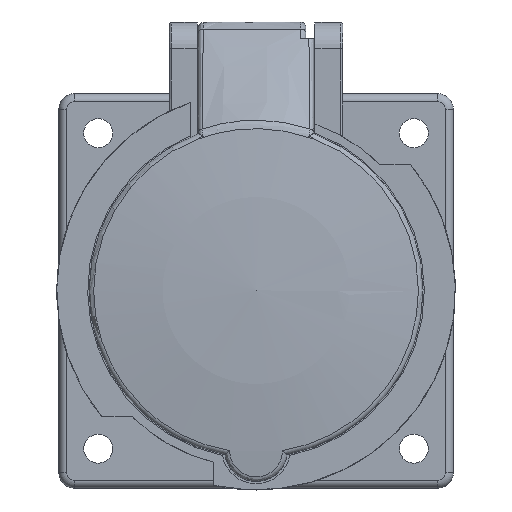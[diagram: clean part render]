
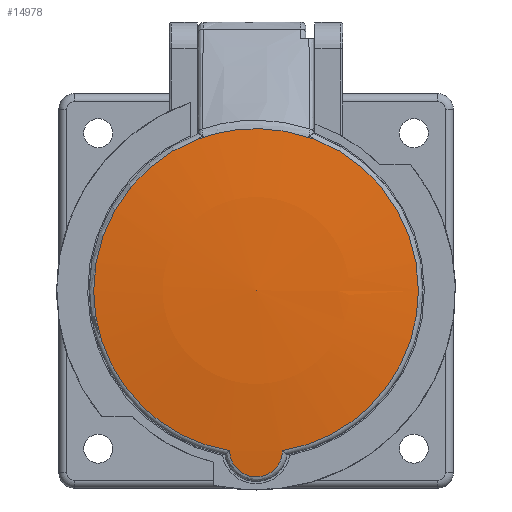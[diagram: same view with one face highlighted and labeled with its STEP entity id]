
A CAD part, top view. The second image highlights one B-rep face of the part: STEP entity #14978.
In plain terms, the highlighted spherical face has radius 253.016 mm.
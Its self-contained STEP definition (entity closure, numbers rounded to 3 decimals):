
#14568 = VERTEX_POINT('',#14569);
#14569 = CARTESIAN_POINT('',(-11.002,28.819,
    49.112));
#14576 = EDGE_CURVE('',#14577,#14568,#14579,.T.);
#14577 = VERTEX_POINT('',#14578);
#14578 = CARTESIAN_POINT('',(11.002,28.819,
    49.112));
#14579 = B_SPLINE_CURVE_WITH_KNOTS('',3,(#14580,#14581,#14582,#14583,
    #14584,#14585,#14586,#14587,#14588,#14589,#14590,#14591,#14592,
    #14593,#14594,#14595,#14596,#14597,#14598,#14599,#14600,#14601,
    #14602,#14603,#14604,#14605,#14606,#14607,#14608,#14609,#14610,
    #14611,#14612,#14613,#14614,#14615,#14616,#14617,#14618,#14619,
    #14620,#14621,#14622,#14623,#14624,#14625,#14626,#14627,#14628,
    #14629,#14630,#14631,#14632,#14633,#14634,#14635,#14636,#14637),
  .UNSPECIFIED.,.F.,.F.,(4,2,2,2,1,2,2,2,2,2,2,2,2,1,1,2,2,2,2,2,2,2,2,1
    ,2,2,2,2,2,2,4),(0.,0.125,0.188,0.219,0.234,0.242,0.25,
    0.281,0.297,0.305,0.313,0.375,0.438,0.469,0.484,
    0.492,0.5,0.531,0.547,0.563,0.594,0.609,0.625,0.656
    ,0.672,0.688,0.719,0.734,0.742,0.75,1.),.UNSPECIFIED.);
#14580 = CARTESIAN_POINT('',(11.002,28.819,
    49.112));
#14581 = CARTESIAN_POINT('',(10.288,29.089,
    49.113));
#14582 = CARTESIAN_POINT('',(9.205,29.427,
    49.116));
#14583 = CARTESIAN_POINT('',(8.04,29.731,
    49.119));
#14584 = CARTESIAN_POINT('',(7.621,29.836,
    49.12));
#14585 = CARTESIAN_POINT('',(6.943,29.991,
    49.12));
#14586 = CARTESIAN_POINT('',(6.708,30.043,
    49.121));
#14587 = CARTESIAN_POINT('',(6.345,30.119,
    49.121));
#14588 = CARTESIAN_POINT('',(6.16,30.157,
    49.121));
#14589 = CARTESIAN_POINT('',(5.971,30.195,
    49.121));
#14590 = CARTESIAN_POINT('',(5.843,30.219,
    49.121));
#14591 = CARTESIAN_POINT('',(5.743,30.238,
    49.121));
#14592 = CARTESIAN_POINT('',(5.6,30.266,
    49.121));
#14593 = CARTESIAN_POINT('',(5.427,30.298,
    49.121));
#14594 = CARTESIAN_POINT('',(5.078,30.358,
    49.121));
#14595 = CARTESIAN_POINT('',(4.947,30.38,
    49.121));
#14596 = CARTESIAN_POINT('',(4.728,30.415,
    49.121));
#14597 = CARTESIAN_POINT('',(4.652,30.427,
    49.121));
#14598 = CARTESIAN_POINT('',(4.491,30.452,
    49.121));
#14599 = CARTESIAN_POINT('',(4.378,30.469,
    49.121));
#14600 = CARTESIAN_POINT('',(3.847,30.545,
    49.12));
#14601 = CARTESIAN_POINT('',(3.382,30.601,
    49.12));
#14602 = CARTESIAN_POINT('',(2.439,30.69,
    49.12));
#14603 = CARTESIAN_POINT('',(1.966,30.723,
    49.121));
#14604 = CARTESIAN_POINT('',(1.257,30.757,
    49.121));
#14605 = CARTESIAN_POINT('',(0.902,30.77,
    49.121));
#14606 = CARTESIAN_POINT('',(0.488,30.777,
    49.121));
#14607 = CARTESIAN_POINT('',(0.31,30.779,
    49.121));
#14608 = CARTESIAN_POINT('',(0.192,30.78,
    49.121));
#14609 = CARTESIAN_POINT('',(0.092,30.78,
    49.121));
#14610 = CARTESIAN_POINT('',(-0.003,30.78,
    49.121));
#14611 = CARTESIAN_POINT('',(-0.16,30.78,
    49.121));
#14612 = CARTESIAN_POINT('',(-0.516,30.776,
    49.121));
#14613 = CARTESIAN_POINT('',(-0.654,30.774,
    49.121));
#14614 = CARTESIAN_POINT('',(-0.971,30.766,
    49.121));
#14615 = CARTESIAN_POINT('',(-1.186,30.759,
    49.121));
#14616 = CARTESIAN_POINT('',(-1.674,30.738,
    49.121));
#14617 = CARTESIAN_POINT('',(-1.955,30.721,
    49.121));
#14618 = CARTESIAN_POINT('',(-2.31,30.696,
    49.12));
#14619 = CARTESIAN_POINT('',(-2.418,30.688,
    49.12));
#14620 = CARTESIAN_POINT('',(-2.61,30.672,
    49.12));
#14621 = CARTESIAN_POINT('',(-2.654,30.668,
    49.12));
#14622 = CARTESIAN_POINT('',(-3.001,30.637,
    49.12));
#14623 = CARTESIAN_POINT('',(-3.352,30.601,
    49.12));
#14624 = CARTESIAN_POINT('',(-3.709,30.558,
    49.121));
#14625 = CARTESIAN_POINT('',(-3.948,30.528,
    49.121));
#14626 = CARTESIAN_POINT('',(-4.014,30.519,
    49.121));
#14627 = CARTESIAN_POINT('',(-4.538,30.446,
    49.121));
#14628 = CARTESIAN_POINT('',(-4.829,30.399,
    49.121));
#14629 = CARTESIAN_POINT('',(-5.182,30.34,
    49.121));
#14630 = CARTESIAN_POINT('',(-5.285,30.322,
    49.121));
#14631 = CARTESIAN_POINT('',(-5.419,30.298,
    49.121));
#14632 = CARTESIAN_POINT('',(-5.461,30.291,
    49.121));
#14633 = CARTESIAN_POINT('',(-5.536,30.277,
    49.121));
#14634 = CARTESIAN_POINT('',(-5.541,30.276,
    49.121));
#14635 = CARTESIAN_POINT('',(-7.513,29.911,
    49.121));
#14636 = CARTESIAN_POINT('',(-9.273,29.473,
    49.113));
#14637 = CARTESIAN_POINT('',(-11.002,28.819,
    49.112));
#14702 = EDGE_CURVE('',#14577,#14703,#14705,.T.);
#14703 = VERTEX_POINT('',#14704);
#14704 = CARTESIAN_POINT('',(30.872,0.,49.109));
#14705 = CIRCLE('',#14706,30.872);
#14706 = AXIS2_PLACEMENT_3D('',#14707,#14708,#14709);
#14707 = CARTESIAN_POINT('',(0.,0.,49.109));
#14708 = DIRECTION('',(0.,0.,-1.));
#14709 = DIRECTION('',(0.357,0.934,0.));
#14711 = EDGE_CURVE('',#14703,#14712,#14714,.T.);
#14712 = VERTEX_POINT('',#14713);
#14713 = CARTESIAN_POINT('',(5.02,-30.461,
    49.109));
#14714 = CIRCLE('',#14715,30.872);
#14715 = AXIS2_PLACEMENT_3D('',#14716,#14717,#14718);
#14716 = CARTESIAN_POINT('',(0.,0.,49.109));
#14717 = DIRECTION('',(0.,0.,-1.));
#14718 = DIRECTION('',(1.,0.,0.));
#14873 = VERTEX_POINT('',#14874);
#14874 = CARTESIAN_POINT('',(-5.02,-30.461,
    49.109));
#14889 = EDGE_CURVE('',#14873,#14712,#14890,.T.);
#14890 = B_SPLINE_CURVE_WITH_KNOTS('',3,(#14891,#14892,#14893,#14894,
    #14895,#14896,#14897,#14898,#14899,#14900),.UNSPECIFIED.,.F.,.F.,(4,
    2,2,2,4),(0.,0.25,0.5,0.75,1.),.UNSPECIFIED.);
#14891 = CARTESIAN_POINT('',(-5.02,-30.461,
    49.109));
#14892 = CARTESIAN_POINT('',(-5.009,-31.735,
    48.955));
#14893 = CARTESIAN_POINT('',(-4.47,-33.056,
    48.795));
#14894 = CARTESIAN_POINT('',(-2.603,-34.91,
    48.57));
#14895 = CARTESIAN_POINT('',(-1.306,-35.44,
    48.506));
#14896 = CARTESIAN_POINT('',(1.309,-35.44,
    48.506));
#14897 = CARTESIAN_POINT('',(2.595,-34.917,
    48.569));
#14898 = CARTESIAN_POINT('',(4.478,-33.048,
    48.796));
#14899 = CARTESIAN_POINT('',(5.009,-31.734,
    48.955));
#14900 = CARTESIAN_POINT('',(5.02,-30.461,
    49.109));
#14978 = ADVANCED_FACE('',(#14979),#15012,.T.);
#14979 = FACE_BOUND('',#14980,.T.);
#14980 = EDGE_LOOP('',(#14981,#14982,#14983,#14992,#14999,#15000,#15001,
    #15011));
#14981 = ORIENTED_EDGE('',*,*,#14702,.F.);
#14982 = ORIENTED_EDGE('',*,*,#14576,.T.);
#14983 = ORIENTED_EDGE('',*,*,#14984,.F.);
#14984 = EDGE_CURVE('',#14985,#14568,#14987,.T.);
#14985 = VERTEX_POINT('',#14986);
#14986 = CARTESIAN_POINT('',(-30.872,0.,
    49.109));
#14987 = CIRCLE('',#14988,30.872);
#14988 = AXIS2_PLACEMENT_3D('',#14989,#14990,#14991);
#14989 = CARTESIAN_POINT('',(0.,0.,49.109));
#14990 = DIRECTION('',(0.,0.,-1.));
#14991 = DIRECTION('',(-1.,0.,0.));
#14992 = ORIENTED_EDGE('',*,*,#14993,.F.);
#14993 = EDGE_CURVE('',#14873,#14985,#14994,.T.);
#14994 = CIRCLE('',#14995,30.872);
#14995 = AXIS2_PLACEMENT_3D('',#14996,#14997,#14998);
#14996 = CARTESIAN_POINT('',(0.,0.,49.109));
#14997 = DIRECTION('',(0.,0.,-1.));
#14998 = DIRECTION('',(-0.163,-0.987,-0.));
#14999 = ORIENTED_EDGE('',*,*,#14889,.T.);
#15000 = ORIENTED_EDGE('',*,*,#14711,.F.);
#15001 = ORIENTED_EDGE('',*,*,#15002,.F.);
#15002 = EDGE_CURVE('',#15003,#14703,#15005,.T.);
#15003 = VERTEX_POINT('',#15004);
#15004 = CARTESIAN_POINT('',(0.,0.,51.));
#15005 = B_SPLINE_CURVE_WITH_KNOTS('',4,(#15006,#15007,#15008,#15009,
    #15010),.UNSPECIFIED.,.F.,.F.,(5,5),(-1.571,-1.448
    ),.PIECEWISE_BEZIER_KNOTS.);
#15006 = CARTESIAN_POINT('',(0.,0.,51.)
  );
#15007 = CARTESIAN_POINT('',(7.737,0.,51.));
#15008 = CARTESIAN_POINT('',(15.475,0.,
    50.685));
#15009 = CARTESIAN_POINT('',(23.193,0.,
    50.054));
#15010 = CARTESIAN_POINT('',(30.872,0.,
    49.109));
#15011 = ORIENTED_EDGE('',*,*,#15002,.T.);
#15012 = SPHERICAL_SURFACE('',#15013,253.016);
#15013 = AXIS2_PLACEMENT_3D('',#15014,#15015,#15016);
#15014 = CARTESIAN_POINT('',(0.,0.,-202.016));
#15015 = DIRECTION('',(0.,0.,-1.));
#15016 = DIRECTION('',(1.,0.,0.));
